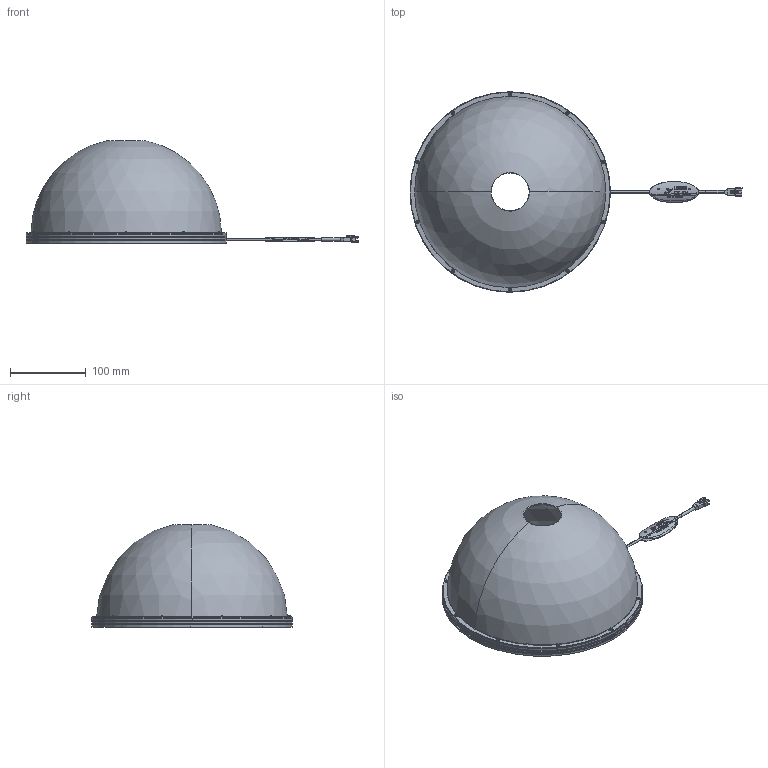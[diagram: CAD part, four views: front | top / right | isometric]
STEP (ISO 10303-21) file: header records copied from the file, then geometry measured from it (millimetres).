
FILE_DESCRIPTION(('STEP AP214'),'1');
FILE_NAME('HLR540DWT04_3D (VDO-265).step','2023-09-12T10:46:41',(' '),(' '),'Spatial InterOp 3D',' ',' ');
FILE_SCHEMA(('AUTOMOTIVE_DESIGN { 1 0 10303 214 1 1 1 1 }'));
Length unit declared in the file: millimetre
Products named in the file (10): 3P; CABEL TAG (VS); REFLECTOR; BASE_265; DOME_265; R7M-1; INSULOK; OFA249A; MXB4949
Assembly tree (25 placements, depth 2):
  (unnamed)
    3P
    CABEL TAG (VS)
    REFLECTOR
    BASE_265
    DOME_265
    R7M-1
    INSULOK
    OFA249A  x8
    MXB4949  x10
Bounding box: 439 x 265 x 135.39 mm (x, y, z)
Volume: 321325 mm3; surface area: 314651.8 mm2
Topology: 50 solids, 51 shells, 1014 faces, 2761 edges, 1880 vertices
Faces by surface type: plane 463, cylinder 385, sphere 64, cone 58, torus 38, bspline 6
Entity records: 27178 total; most frequent: CARTESIAN_POINT 5939, ORIENTED_EDGE 3498, DIRECTION 3185, EDGE_CURVE 1749, VERTEX_POINT 1246, AXIS2_PLACEMENT_3D 1154, LINE 877, VECTOR 877
